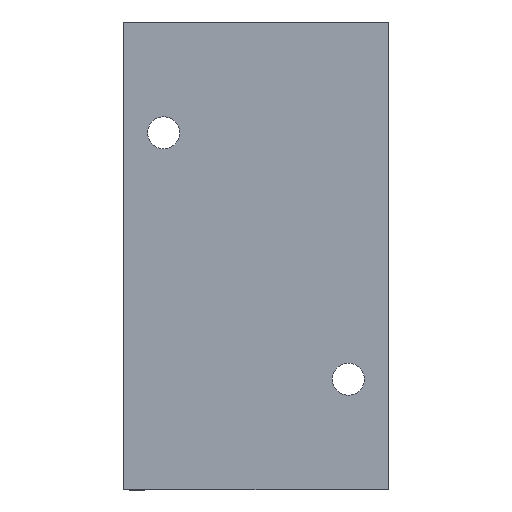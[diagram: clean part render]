
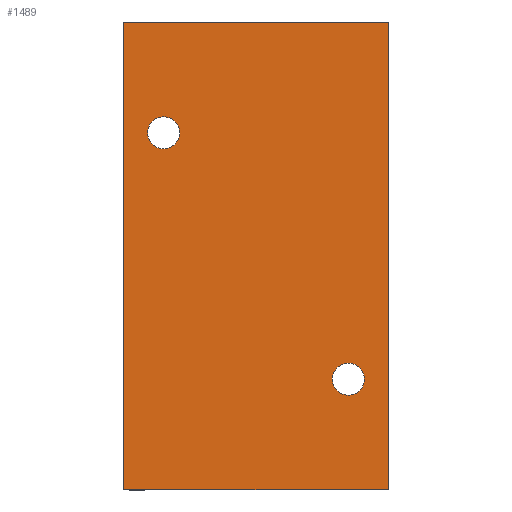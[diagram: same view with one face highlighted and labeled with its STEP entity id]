
A CAD part, front view. The second image highlights one B-rep face of the part: STEP entity #1489.
In plain terms, the highlighted planar face has unit normal (0, -1, 0).
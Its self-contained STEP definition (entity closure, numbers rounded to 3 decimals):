
#8 = CARTESIAN_POINT ( 'NONE',  ( -21.5, -15., 38. ) ) ;
#56 = ORIENTED_EDGE ( 'NONE', *, *, #1127, .F. ) ;
#75 = DIRECTION ( 'NONE',  ( 0., -1., 0. ) ) ;
#79 = VECTOR ( 'NONE', #1740, 1000. ) ;
#145 = EDGE_CURVE ( 'NONE', #494, #1393, #467, .T. ) ;
#183 = AXIS2_PLACEMENT_3D ( 'NONE', #1187, #634, #1066 ) ;
#209 = VECTOR ( 'NONE', #1322, 1000. ) ;
#222 = EDGE_CURVE ( 'NONE', #909, #229, #512, .T. ) ;
#228 = ORIENTED_EDGE ( 'NONE', *, *, #533, .T. ) ;
#229 = VERTEX_POINT ( 'NONE', #1064 ) ;
#333 = EDGE_CURVE ( 'NONE', #1839, #795, #1336, .T. ) ;
#395 = ORIENTED_EDGE ( 'NONE', *, *, #333, .F. ) ;
#467 = LINE ( 'NONE', #1299, #79 ) ;
#470 = DIRECTION ( 'NONE',  ( 0., -1., 0. ) ) ;
#471 = CARTESIAN_POINT ( 'NONE',  ( 21.5, -15., 38. ) ) ;
#494 = VERTEX_POINT ( 'NONE', #471 ) ;
#512 = CIRCLE ( 'NONE', #639, 2.6 ) ;
#533 = EDGE_CURVE ( 'NONE', #712, #901, #1454, .T. ) ;
#551 = VECTOR ( 'NONE', #1765, 1000. ) ;
#607 = DIRECTION ( 'NONE',  ( 0., 1., 0. ) ) ;
#620 = PLANE ( 'NONE',  #1078 ) ;
#633 = AXIS2_PLACEMENT_3D ( 'NONE', #1843, #470, #1734 ) ;
#634 = DIRECTION ( 'NONE',  ( 0., -1., 0. ) ) ;
#639 = AXIS2_PLACEMENT_3D ( 'NONE', #1338, #75, #945 ) ;
#712 = VERTEX_POINT ( 'NONE', #1475 ) ;
#742 = FACE_OUTER_BOUND ( 'NONE', #1330, .T. ) ;
#786 = AXIS2_PLACEMENT_3D ( 'NONE', #1684, #984, #1520 ) ;
#795 = VERTEX_POINT ( 'NONE', #1691 ) ;
#800 = ORIENTED_EDGE ( 'NONE', *, *, #145, .F. ) ;
#867 = CARTESIAN_POINT ( 'NONE',  ( -21.5, -15., 38. ) ) ;
#884 = CIRCLE ( 'NONE', #183, 2.6 ) ;
#895 = EDGE_CURVE ( 'NONE', #795, #1839, #1773, .T. ) ;
#901 = VERTEX_POINT ( 'NONE', #905 ) ;
#905 = CARTESIAN_POINT ( 'NONE',  ( -21.5, -15., -38. ) ) ;
#907 = LINE ( 'NONE', #1147, #209 ) ;
#909 = VERTEX_POINT ( 'NONE', #1463 ) ;
#938 = ORIENTED_EDGE ( 'NONE', *, *, #222, .F. ) ;
#945 = DIRECTION ( 'NONE',  ( 0., 0., -1. ) ) ;
#984 = DIRECTION ( 'NONE',  ( 0., -1., 0. ) ) ;
#1006 = DIRECTION ( 'NONE',  ( 0., 0., 1. ) ) ;
#1064 = CARTESIAN_POINT ( 'NONE',  ( -15., -15., 17.4 ) ) ;
#1066 = DIRECTION ( 'NONE',  ( 0., 0., -1. ) ) ;
#1078 = AXIS2_PLACEMENT_3D ( 'NONE', #8, #607, #1006 ) ;
#1127 = EDGE_CURVE ( 'NONE', #229, #909, #884, .T. ) ;
#1137 = EDGE_CURVE ( 'NONE', #712, #494, #1617, .T. ) ;
#1147 = CARTESIAN_POINT ( 'NONE',  ( -21.5, -15., -38. ) ) ;
#1184 = ORIENTED_EDGE ( 'NONE', *, *, #1137, .F. ) ;
#1187 = CARTESIAN_POINT ( 'NONE',  ( -15., -15., 20. ) ) ;
#1279 = ORIENTED_EDGE ( 'NONE', *, *, #1530, .T. ) ;
#1297 = FACE_BOUND ( 'NONE', #1683, .T. ) ;
#1299 = CARTESIAN_POINT ( 'NONE',  ( 21.5, -15., 38. ) ) ;
#1322 = DIRECTION ( 'NONE',  ( 1., 0., 0. ) ) ;
#1327 = CARTESIAN_POINT ( 'NONE',  ( -21.5, -15., 38. ) ) ;
#1330 = EDGE_LOOP ( 'NONE', ( #1279, #800, #1184, #228 ) ) ;
#1336 = CIRCLE ( 'NONE', #786, 2.6 ) ;
#1338 = CARTESIAN_POINT ( 'NONE',  ( -15., -15., 20. ) ) ;
#1352 = ORIENTED_EDGE ( 'NONE', *, *, #895, .F. ) ;
#1388 = CARTESIAN_POINT ( 'NONE',  ( 15., -15., -17.4 ) ) ;
#1393 = VERTEX_POINT ( 'NONE', #1556 ) ;
#1422 = DIRECTION ( 'NONE',  ( 0., 0., -1. ) ) ;
#1454 = LINE ( 'NONE', #867, #1492 ) ;
#1463 = CARTESIAN_POINT ( 'NONE',  ( -15., -15., 22.6 ) ) ;
#1475 = CARTESIAN_POINT ( 'NONE',  ( -21.5, -15., 38. ) ) ;
#1489 = ADVANCED_FACE ( 'NONE', ( #1587, #742, #1297 ), #620, .F. ) ;
#1492 = VECTOR ( 'NONE', #1422, 1000. ) ;
#1520 = DIRECTION ( 'NONE',  ( 0., 0., -1. ) ) ;
#1530 = EDGE_CURVE ( 'NONE', #901, #1393, #907, .T. ) ;
#1556 = CARTESIAN_POINT ( 'NONE',  ( 21.5, -15., -38. ) ) ;
#1587 = FACE_BOUND ( 'NONE', #1786, .T. ) ;
#1617 = LINE ( 'NONE', #1327, #551 ) ;
#1683 = EDGE_LOOP ( 'NONE', ( #56, #938 ) ) ;
#1684 = CARTESIAN_POINT ( 'NONE',  ( 15., -15., -20. ) ) ;
#1691 = CARTESIAN_POINT ( 'NONE',  ( 15., -15., -22.6 ) ) ;
#1734 = DIRECTION ( 'NONE',  ( 0., 0., -1. ) ) ;
#1740 = DIRECTION ( 'NONE',  ( 0., 0., -1. ) ) ;
#1765 = DIRECTION ( 'NONE',  ( 1., 0., 0. ) ) ;
#1773 = CIRCLE ( 'NONE', #633, 2.6 ) ;
#1786 = EDGE_LOOP ( 'NONE', ( #1352, #395 ) ) ;
#1839 = VERTEX_POINT ( 'NONE', #1388 ) ;
#1843 = CARTESIAN_POINT ( 'NONE',  ( 15., -15., -20. ) ) ;
